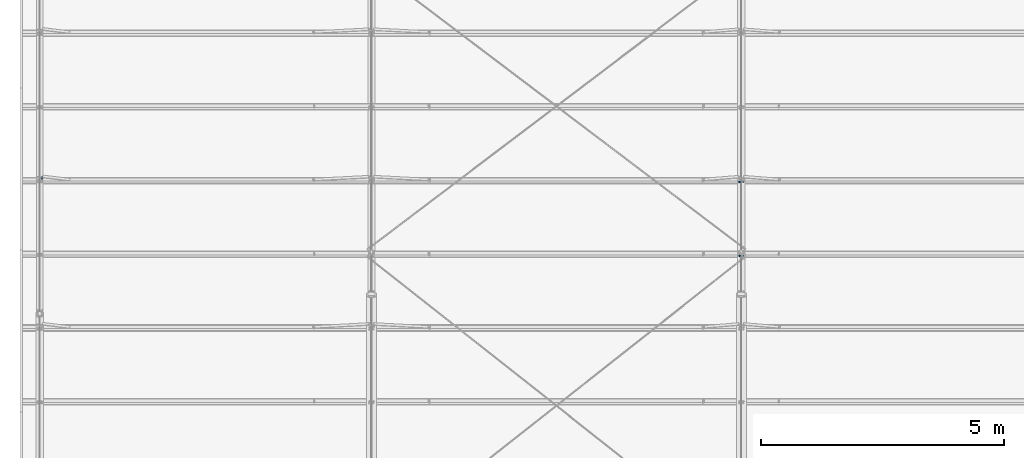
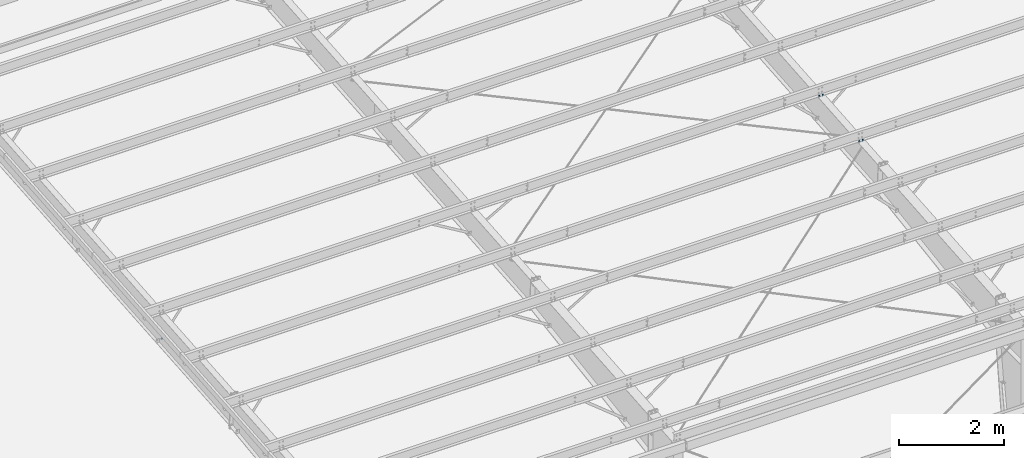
# One storey, part 127 of 185: 5 mechanical fasteners, 3 elements without a shape of their own.
"""IFC2X3 building model written with IfcOpenShell, lengths in millimetres."""

from ifc_helpers import new_model, si_unit, frame, origin_with_axes, origin_2d_with_axis, place, context, subcontext, project, spatial, polyline, circle, outline, extrude, source, transform, mapped, material, type_object, element, aggregate, save


model = new_model("IFC2X3")

# Units and contexts
model_context = context("Model", 3, precision=1e-05, world=origin_with_axes())
body_context = subcontext(model_context, "Body", "Model", "MODEL_VIEW")
ifc_project = project(units=[si_unit("LENGTHUNIT", "METRE", prefix="MILLI"), si_unit("AREAUNIT", "SQUARE_METRE"), si_unit("VOLUMEUNIT", "CUBIC_METRE"), si_unit("MASSUNIT", "GRAM", prefix="KILO"), si_unit("TIMEUNIT", "SECOND"), si_unit("PLANEANGLEUNIT", "RADIAN"), si_unit("SOLIDANGLEUNIT", "STERADIAN"), si_unit("THERMODYNAMICTEMPERATUREUNIT", "DEGREE_CELSIUS"), si_unit("LUMINOUSINTENSITYUNIT", "LUMEN")], contexts=[model_context])

# Site, building, storey
site_placement = place(None, origin_with_axes())
site = spatial("IfcSite", under=ifc_project, at=site_placement, Name="Undefined", CompositionType="ELEMENT")
building_placement = place(site_placement, origin_with_axes())
building = spatial("IfcBuilding", under=site, at=building_placement, Name="Undefined", CompositionType="ELEMENT")
storey_placement = place(building_placement, origin_with_axes())
storey = spatial("IfcBuildingStorey", under=building, at=storey_placement, Name="Undefined", CompositionType="ELEMENT", Elevation=0.0)

# Assembly, mechanical fastener
assembly_1_placement = place(storey_placement, origin_with_axes())
assembly_1 = element("IfcElementAssembly", 1, at=assembly_1_placement, inside=storey, Name="Steel Assembly", AssemblyPlace="NOTDEFINED", PredefinedType="RIGID_FRAME")
ifc_material = material(Name="Undefined")
discrete_accessory_type = type_object("IfcDiscreteAccessoryType", Name="Bolt assembly")
shared_shape_1 = source(origin_with_axes(), body_context, "Body", "SweptSolid", [
    extrude(circle(Radius=7.14374971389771, at=origin_2d_with_axis()), frame((0.0, -1.59000001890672, 0.0), z_axis=(0.0, 1.0, 0.0), x_axis=(1.0, 0.0, 0.0)), (0.0, 0.0, 1.0), 1.7),
    extrude(outline(polyline([(10.9985221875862, 0.0), (5.4992610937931, 9.52499961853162), (-5.4992610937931, 9.52499961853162), (-10.9985221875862, 0.0), (-5.4992610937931, -9.52499961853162), (5.4992610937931, -9.52499961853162), (10.9985221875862, 0.0)])), frame((0.0, -15.0837496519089, 0.0), z_axis=(0.0, 1.0, 0.0), x_axis=(1.0, 0.0, 0.0)), (0.0, 0.0, 1.0), 9.5),
    extrude(circle(Radius=6.34999990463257, at=origin_2d_with_axis()), frame((0.0, -5.5587500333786, 0.0), z_axis=(0.0, 1.0, 0.0), x_axis=(1.0, 0.0, 0.0)), (0.0, 0.0, 1.0), 38.1),
    extrude(circle(Radius=13.4937496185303, at=origin_2d_with_axis()), frame((0.0, -5.5587500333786, 0.0), z_axis=(0.0, 1.0, 0.0), x_axis=(1.0, 0.0, 0.0)), (0.0, 0.0, 1.0), 4.0),
    extrude(circle(Radius=22.2250003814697, at=origin_2d_with_axis()), frame((0.0, 0.0, 0.0), z_axis=(0.0, 1.0, 0.0), x_axis=(1.0, 0.0, 0.0)), (0.0, 0.0, 1.0), 7.9),
    extrude(outline(polyline([(12.8316099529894, 0.0), (6.4158049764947, 11.1125001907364), (-6.4158049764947, 11.1125001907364), (-12.8316099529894, 0.0), (-6.4158049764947, -11.1125001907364), (6.4158049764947, -11.1125001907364), (12.8316099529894, 0.0)])), frame((0.0, 7.93750000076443, 0.0), z_axis=(0.0, 1.0, 0.0), x_axis=(1.0, 0.0, 0.0)), (0.0, 0.0, 1.0), 12.3),
])
mechanical_fastener_1_placement = place(assembly_1_placement, frame((453.11163309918, 8175.95984130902, 5914.75831666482), z_axis=(0.832860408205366, 0.0459642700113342, -0.551571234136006), x_axis=(0.553483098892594, -0.0691652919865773, 0.829983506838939)))
mechanical_fastener_1 = element("IfcMechanicalFastener", 2, at=mechanical_fastener_1_placement, type_object=discrete_accessory_type, material=ifc_material, Name="Bolt assembly", NominalDiameter=12.6999998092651, NominalLength=38.0999984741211, context=body_context, shape_type="MappedRepresentation", body=[
    mapped(shared_shape_1, transform((0.0, 0.0, 0.0))),
])
aggregate(assembly_1, [mechanical_fastener_1])

# Assembly, mechanical fasteners
assembly_2_placement = place(storey_placement, origin_with_axes())
assembly_2 = element("IfcElementAssembly", 3, at=assembly_2_placement, inside=storey, Name="Steel Assembly", AssemblyPlace="NOTDEFINED", PredefinedType="RIGID_FRAME")
shared_shape_2 = source(origin_with_axes(), body_context, "Body", "SweptSolid", [
    extrude(circle(Radius=7.14374971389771, at=origin_2d_with_axis()), frame((0.0, -0.0238014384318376, 0.0), z_axis=(0.0, 1.0, 0.0), x_axis=(1.0, 0.0, 0.0)), (0.0, 0.0, 1.0), 8.0),
    extrude(circle(Radius=7.14374971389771, at=origin_2d_with_axis()), frame((0.0, -3.08000006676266, 0.0), z_axis=(0.0, 1.0, 0.0), x_axis=(1.0, 0.0, 0.0)), (0.0, 0.0, 1.0), 3.2),
    extrude(circle(Radius=7.14374971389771, at=origin_2d_with_axis()), frame((0.0, -3.08000006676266, 0.0), z_axis=(0.0, 1.0, 0.0), x_axis=(1.0, 0.0, 0.0)), (0.0, 0.0, 1.0), 3.2),
    extrude(outline(polyline([(12.8316099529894, 0.0), (6.4158049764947, 11.1125001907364), (-6.4158049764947, 11.1125001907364), (-12.8316099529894, 0.0), (-6.4158049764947, -11.1125001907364), (6.4158049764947, -11.1125001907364), (12.8316099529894, 0.0)])), frame((0.0, -15.08625183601, 0.0), z_axis=(0.0, 1.0, 0.0), x_axis=(1.0, 0.0, 0.0)), (0.0, 0.0, 1.0), 7.9),
    extrude(circle(Radius=6.34999990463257, at=origin_2d_with_axis()), frame((0.0, -7.14875006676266, 0.0), z_axis=(0.0, 1.0, 0.0), x_axis=(1.0, 0.0, 0.0)), (0.0, 0.0, 1.0), 50.8),
    extrude(circle(Radius=13.4937496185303, at=origin_2d_with_axis()), frame((0.0, -7.14875006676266, 0.0), z_axis=(0.0, 1.0, 0.0), x_axis=(1.0, 0.0, 0.0)), (0.0, 0.0, 1.0), 4.0),
    extrude(circle(Radius=22.2250003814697, at=origin_2d_with_axis()), frame((0.0, 7.95019856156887, 0.0), z_axis=(0.0, 1.0, 0.0), x_axis=(1.0, 0.0, 0.0)), (0.0, 0.0, 1.0), 7.9),
    extrude(outline(polyline([(12.8316099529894, 0.0), (6.4158049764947, 11.1125001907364), (-6.4158049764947, 11.1125001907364), (-12.8316099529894, 0.0), (-6.4158049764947, -11.1125001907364), (6.4158049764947, -11.1125001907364), (12.8316099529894, 0.0)])), frame((0.0, 15.8876985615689, 0.0), z_axis=(0.0, 1.0, 0.0), x_axis=(1.0, 0.0, 0.0)), (0.0, 0.0, 1.0), 12.3),
])
mechanical_fastener_2_placement = place(assembly_2_placement, frame((14820.9, 6564.74531362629, 6439.15777570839), z_axis=(1.0, 0.0, 0.0), x_axis=(0.0, -0.996545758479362, -0.0830454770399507)))
mechanical_fastener_2 = element("IfcMechanicalFastener", 4, at=mechanical_fastener_2_placement, type_object=discrete_accessory_type, material=ifc_material, Name="Bolt assembly", NominalDiameter=12.6999998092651, NominalLength=50.7999992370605, context=body_context, shape_type="MappedRepresentation", body=[
    mapped(shared_shape_2, transform((0.0, 0.0, 0.0))),
])
shared_shape_3 = source(origin_with_axes(), body_context, "Body", "SweptSolid", [
    extrude(circle(Radius=7.14374971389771, at=origin_2d_with_axis()), frame((0.0, -0.0238014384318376, 0.0), z_axis=(0.0, 1.0, 0.0), x_axis=(1.0, 0.0, 0.0)), (0.0, 0.0, 1.0), 8.0),
    extrude(circle(Radius=7.14374971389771, at=origin_2d_with_axis()), frame((0.0, -3.08000006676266, 0.0), z_axis=(0.0, 1.0, 0.0), x_axis=(1.0, 0.0, 0.0)), (0.0, 0.0, 1.0), 3.2),
    extrude(circle(Radius=7.14374971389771, at=origin_2d_with_axis()), frame((0.0, -3.08000006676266, 0.0), z_axis=(0.0, 1.0, 0.0), x_axis=(1.0, 0.0, 0.0)), (0.0, 0.0, 1.0), 3.2),
    extrude(outline(polyline([(12.8316099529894, 0.0), (6.4158049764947, 11.1125001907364), (-6.4158049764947, 11.1125001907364), (-12.8316099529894, 0.0), (-6.4158049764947, -11.1125001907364), (6.4158049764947, -11.1125001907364), (12.8316099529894, 0.0)])), frame((0.0, -15.08625183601, 0.0), z_axis=(0.0, 1.0, 0.0), x_axis=(1.0, 0.0, 0.0)), (0.0, 0.0, 1.0), 7.9),
    extrude(circle(Radius=6.34999990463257, at=origin_2d_with_axis()), frame((0.0, -7.14875006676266, 0.0), z_axis=(0.0, 1.0, 0.0), x_axis=(1.0, 0.0, 0.0)), (0.0, 0.0, 1.0), 50.8),
    extrude(circle(Radius=13.4937496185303, at=origin_2d_with_axis()), frame((0.0, -7.14875006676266, 0.0), z_axis=(0.0, 1.0, 0.0), x_axis=(1.0, 0.0, 0.0)), (0.0, 0.0, 1.0), 4.0),
    extrude(outline(polyline([(12.8316099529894, 0.0), (6.4158049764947, 11.1125001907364), (-6.4158049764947, 11.1125001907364), (-12.8316099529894, 0.0), (-6.4158049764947, -11.1125001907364), (6.4158049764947, -11.1125001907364), (12.8316099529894, 0.0)])), frame((0.0, 7.95019856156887, 0.0), z_axis=(0.0, 1.0, 0.0), x_axis=(1.0, 0.0, 0.0)), (0.0, 0.0, 1.0), 12.3),
])
mechanical_fastener_3_placement = place(assembly_2_placement, frame((14897.1, 6564.74531362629, 6439.15777570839), z_axis=(1.0, 0.0, 0.0), x_axis=(0.0, -0.996545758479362, -0.0830454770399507)))
mechanical_fastener_3 = element("IfcMechanicalFastener", 5, at=mechanical_fastener_3_placement, type_object=discrete_accessory_type, material=ifc_material, Name="Bolt assembly", NominalDiameter=12.6999998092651, NominalLength=50.7999992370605, context=body_context, shape_type="MappedRepresentation", body=[
    mapped(shared_shape_3, transform((0.0, 0.0, 0.0))),
])
aggregate(assembly_2, [mechanical_fastener_2, mechanical_fastener_3])

assembly_3_placement = place(storey_placement, origin_with_axes())
assembly_3 = element("IfcElementAssembly", 6, at=assembly_3_placement, inside=storey, Name="Steel Assembly", AssemblyPlace="NOTDEFINED", PredefinedType="RIGID_FRAME")
shared_shape_4 = source(origin_with_axes(), body_context, "Body", "SweptSolid", [
    extrude(circle(Radius=7.14374971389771, at=origin_2d_with_axis()), frame((0.0, -0.0238014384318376, 0.0), z_axis=(0.0, 1.0, 0.0), x_axis=(1.0, 0.0, 0.0)), (0.0, 0.0, 1.0), 8.0),
    extrude(circle(Radius=7.14374971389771, at=origin_2d_with_axis()), frame((0.0, -3.08000006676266, 0.0), z_axis=(0.0, 1.0, 0.0), x_axis=(1.0, 0.0, 0.0)), (0.0, 0.0, 1.0), 3.2),
    extrude(circle(Radius=7.14374971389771, at=origin_2d_with_axis()), frame((0.0, -3.08000006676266, 0.0), z_axis=(0.0, 1.0, 0.0), x_axis=(1.0, 0.0, 0.0)), (0.0, 0.0, 1.0), 3.2),
    extrude(outline(polyline([(10.9985221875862, 0.0), (5.4992610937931, 9.52499961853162), (-5.4992610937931, 9.52499961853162), (-10.9985221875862, 0.0), (-5.4992610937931, -9.52499961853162), (5.4992610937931, -9.52499961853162), (10.9985221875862, 0.0)])), frame((0.0, -16.6737496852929, 0.0), z_axis=(0.0, 1.0, 0.0), x_axis=(1.0, 0.0, 0.0)), (0.0, 0.0, 1.0), 9.5),
    extrude(circle(Radius=6.34999990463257, at=origin_2d_with_axis()), frame((0.0, -7.14875006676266, 0.0), z_axis=(0.0, 1.0, 0.0), x_axis=(1.0, 0.0, 0.0)), (0.0, 0.0, 1.0), 38.1),
    extrude(circle(Radius=13.4937496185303, at=origin_2d_with_axis()), frame((0.0, -7.14875006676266, 0.0), z_axis=(0.0, 1.0, 0.0), x_axis=(1.0, 0.0, 0.0)), (0.0, 0.0, 1.0), 4.0),
    extrude(circle(Radius=22.2250003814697, at=origin_2d_with_axis()), frame((0.0, 7.95019856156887, 0.0), z_axis=(0.0, 1.0, 0.0), x_axis=(1.0, 0.0, 0.0)), (0.0, 0.0, 1.0), 7.9),
    extrude(outline(polyline([(12.8316099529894, 0.0), (6.4158049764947, 11.1125001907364), (-6.4158049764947, 11.1125001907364), (-12.8316099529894, 0.0), (-6.4158049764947, -11.1125001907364), (6.4158049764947, -11.1125001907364), (12.8316099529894, 0.0)])), frame((0.0, 15.8876985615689, 0.0), z_axis=(0.0, 1.0, 0.0), x_axis=(1.0, 0.0, 0.0)), (0.0, 0.0, 1.0), 12.3),
])
mechanical_fastener_4_placement = place(assembly_3_placement, frame((14820.9, 8083.48104764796, 6565.71908714), z_axis=(1.0, 0.0, 0.0), x_axis=(0.0, -0.996545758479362, -0.0830454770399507)))
mechanical_fastener_4 = element("IfcMechanicalFastener", 7, at=mechanical_fastener_4_placement, type_object=discrete_accessory_type, material=ifc_material, Name="Bolt assembly", NominalDiameter=12.6999998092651, NominalLength=38.0999984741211, context=body_context, shape_type="MappedRepresentation", body=[
    mapped(shared_shape_4, transform((0.0, 0.0, 0.0))),
])
shared_shape_5 = source(origin_with_axes(), body_context, "Body", "SweptSolid", [
    extrude(circle(Radius=7.14374971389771, at=origin_2d_with_axis()), frame((0.0, -0.0238014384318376, 0.0), z_axis=(0.0, 1.0, 0.0), x_axis=(1.0, 0.0, 0.0)), (0.0, 0.0, 1.0), 8.0),
    extrude(circle(Radius=7.14374971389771, at=origin_2d_with_axis()), frame((0.0, -3.08000006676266, 0.0), z_axis=(0.0, 1.0, 0.0), x_axis=(1.0, 0.0, 0.0)), (0.0, 0.0, 1.0), 3.2),
    extrude(circle(Radius=7.14374971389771, at=origin_2d_with_axis()), frame((0.0, -3.08000006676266, 0.0), z_axis=(0.0, 1.0, 0.0), x_axis=(1.0, 0.0, 0.0)), (0.0, 0.0, 1.0), 3.2),
    extrude(outline(polyline([(10.9985221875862, 0.0), (5.4992610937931, 9.52499961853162), (-5.4992610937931, 9.52499961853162), (-10.9985221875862, 0.0), (-5.4992610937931, -9.52499961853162), (5.4992610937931, -9.52499961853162), (10.9985221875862, 0.0)])), frame((0.0, -16.6737496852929, 0.0), z_axis=(0.0, 1.0, 0.0), x_axis=(1.0, 0.0, 0.0)), (0.0, 0.0, 1.0), 9.5),
    extrude(circle(Radius=6.34999990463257, at=origin_2d_with_axis()), frame((0.0, -7.14875006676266, 0.0), z_axis=(0.0, 1.0, 0.0), x_axis=(1.0, 0.0, 0.0)), (0.0, 0.0, 1.0), 38.1),
    extrude(circle(Radius=13.4937496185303, at=origin_2d_with_axis()), frame((0.0, -7.14875006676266, 0.0), z_axis=(0.0, 1.0, 0.0), x_axis=(1.0, 0.0, 0.0)), (0.0, 0.0, 1.0), 4.0),
    extrude(outline(polyline([(12.8316099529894, 0.0), (6.4158049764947, 11.1125001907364), (-6.4158049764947, 11.1125001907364), (-12.8316099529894, 0.0), (-6.4158049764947, -11.1125001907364), (6.4158049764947, -11.1125001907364), (12.8316099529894, 0.0)])), frame((0.0, 7.95019856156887, 0.0), z_axis=(0.0, 1.0, 0.0), x_axis=(1.0, 0.0, 0.0)), (0.0, 0.0, 1.0), 12.3),
])
mechanical_fastener_5_placement = place(assembly_3_placement, frame((14897.1, 8083.48104764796, 6565.71908714), z_axis=(1.0, 0.0, 0.0), x_axis=(0.0, -0.996545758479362, -0.0830454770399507)))
mechanical_fastener_5 = element("IfcMechanicalFastener", 8, at=mechanical_fastener_5_placement, type_object=discrete_accessory_type, material=ifc_material, Name="Bolt assembly", NominalDiameter=12.6999998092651, NominalLength=38.0999984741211, context=body_context, shape_type="MappedRepresentation", body=[
    mapped(shared_shape_5, transform((0.0, 0.0, 0.0))),
])
aggregate(assembly_3, [mechanical_fastener_4, mechanical_fastener_5])

save(model, "model.ifc")
